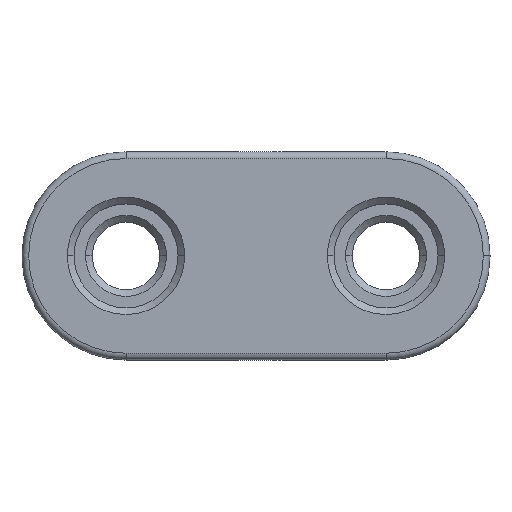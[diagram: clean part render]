
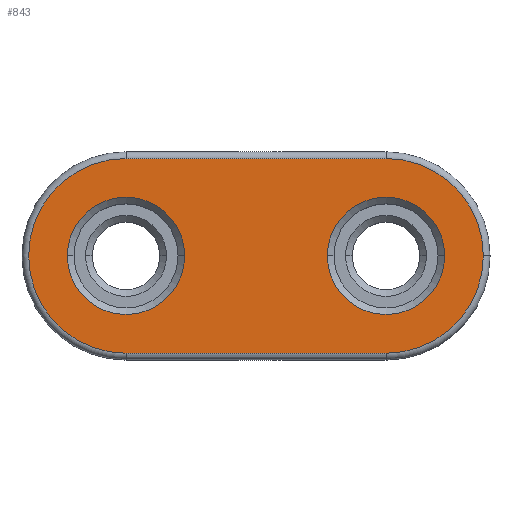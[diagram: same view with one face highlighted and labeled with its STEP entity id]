
A CAD part, top view. The second image highlights one B-rep face of the part: STEP entity #843.
In plain terms, the highlighted planar face has unit normal (0, 0, 1).
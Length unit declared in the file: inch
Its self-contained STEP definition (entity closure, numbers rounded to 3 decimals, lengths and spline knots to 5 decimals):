
#24 = EDGE_CURVE ( 'NONE', #1251, #420, #583, .T. ) ;
#81 = AXIS2_PLACEMENT_3D ( 'NONE', #1982, #747, #965 ) ;
#125 = CARTESIAN_POINT ( 'NONE',  ( 0., 0., 0.375 ) ) ;
#129 = DIRECTION ( 'NONE',  ( 0., 0., -1. ) ) ;
#130 = ORIENTED_EDGE ( 'NONE', *, *, #2289, .T. ) ;
#186 = CARTESIAN_POINT ( 'NONE',  ( 1.25, 0., 0.375 ) ) ;
#193 = CARTESIAN_POINT ( 'NONE',  ( 0., 0.468, 0.375 ) ) ;
#227 = VERTEX_POINT ( 'NONE', #2579 ) ;
#238 = VERTEX_POINT ( 'NONE', #1819 ) ;
#255 = DIRECTION ( 'NONE',  ( 1., 0., 0. ) ) ;
#310 = VERTEX_POINT ( 'NONE', #1741 ) ;
#311 = ORIENTED_EDGE ( 'NONE', *, *, #445, .T. ) ;
#329 = PLANE ( 'NONE',  #81 ) ;
#346 = CARTESIAN_POINT ( 'NONE',  ( 1.25, 0., 0.375 ) ) ;
#420 = VERTEX_POINT ( 'NONE', #2584 ) ;
#425 = EDGE_LOOP ( 'NONE', ( #1304, #1901 ) ) ;
#445 = EDGE_CURVE ( 'NONE', #1322, #310, #456, .T. ) ;
#449 = EDGE_CURVE ( 'NONE', #2181, #227, #592, .T. ) ;
#456 = CIRCLE ( 'NONE', #2508, 0.282 ) ;
#486 = DIRECTION ( 'NONE',  ( 1., 0., 0. ) ) ;
#490 = AXIS2_PLACEMENT_3D ( 'NONE', #125, #2613, #726 ) ;
#525 = FACE_BOUND ( 'NONE', #425, .T. ) ;
#531 = CARTESIAN_POINT ( 'NONE',  ( 0., 0., 0.375 ) ) ;
#563 = DIRECTION ( 'NONE',  ( 0., 0., -1. ) ) ;
#583 = LINE ( 'NONE', #193, #1822 ) ;
#592 = CIRCLE ( 'NONE', #1183, 0.282 ) ;
#676 = VERTEX_POINT ( 'NONE', #2102 ) ;
#677 = EDGE_CURVE ( 'NONE', #676, #1686, #2560, .T. ) ;
#679 = EDGE_LOOP ( 'NONE', ( #311, #1916 ) ) ;
#699 = DIRECTION ( 'NONE',  ( 0., 0., 1. ) ) ;
#720 = FACE_BOUND ( 'NONE', #679, .T. ) ;
#726 = DIRECTION ( 'NONE',  ( 1., 0., 0. ) ) ;
#747 = DIRECTION ( 'NONE',  ( 0., 0., 1. ) ) ;
#752 = FACE_OUTER_BOUND ( 'NONE', #2164, .T. ) ;
#827 = EDGE_CURVE ( 'NONE', #310, #1322, #2210, .T. ) ;
#843 = ADVANCED_FACE ( 'NONE', ( #720, #525, #752 ), #329, .T. ) ;
#872 = CARTESIAN_POINT ( 'NONE',  ( 1.25, -0.468, 0.375 ) ) ;
#963 = DIRECTION ( 'NONE',  ( 1., 0., 0. ) ) ;
#965 = DIRECTION ( 'NONE',  ( 1., 0., 0. ) ) ;
#989 = EDGE_CURVE ( 'NONE', #238, #676, #1663, .T. ) ;
#1004 = VECTOR ( 'NONE', #1503, 39.37008 ) ;
#1005 = CARTESIAN_POINT ( 'NONE',  ( 1.718, 0., 0.375 ) ) ;
#1068 = DIRECTION ( 'NONE',  ( 0., 0., 1. ) ) ;
#1158 = CARTESIAN_POINT ( 'NONE',  ( 1.532, 0., 0.375 ) ) ;
#1183 = AXIS2_PLACEMENT_3D ( 'NONE', #531, #129, #963 ) ;
#1251 = VERTEX_POINT ( 'NONE', #1795 ) ;
#1304 = ORIENTED_EDGE ( 'NONE', *, *, #449, .T. ) ;
#1322 = VERTEX_POINT ( 'NONE', #1158 ) ;
#1352 = CARTESIAN_POINT ( 'NONE',  ( 0.282, 0., 0.375 ) ) ;
#1372 = CIRCLE ( 'NONE', #1989, 0.468 ) ;
#1416 = DIRECTION ( 'NONE',  ( 0., 0., 1. ) ) ;
#1429 = AXIS2_PLACEMENT_3D ( 'NONE', #346, #563, #2406 ) ;
#1494 = CIRCLE ( 'NONE', #490, 0.282 ) ;
#1503 = DIRECTION ( 'NONE',  ( 1., 0., 0. ) ) ;
#1514 = DIRECTION ( 'NONE',  ( 0., 0., -1. ) ) ;
#1553 = ORIENTED_EDGE ( 'NONE', *, *, #989, .T. ) ;
#1591 = ORIENTED_EDGE ( 'NONE', *, *, #2652, .T. ) ;
#1663 = LINE ( 'NONE', #872, #1004 ) ;
#1686 = VERTEX_POINT ( 'NONE', #1005 ) ;
#1695 = CIRCLE ( 'NONE', #2436, 0.468 ) ;
#1708 = CARTESIAN_POINT ( 'NONE',  ( 0., 0., 0.375 ) ) ;
#1741 = CARTESIAN_POINT ( 'NONE',  ( 0.968, 0., 0.375 ) ) ;
#1781 = DIRECTION ( 'NONE',  ( 1., 0., 0. ) ) ;
#1795 = CARTESIAN_POINT ( 'NONE',  ( 1.25, 0.468, 0.375 ) ) ;
#1819 = CARTESIAN_POINT ( 'NONE',  ( 0., -0.468, 0.375 ) ) ;
#1822 = VECTOR ( 'NONE', #2465, 39.37008 ) ;
#1846 = DIRECTION ( 'NONE',  ( 1., 0., 0. ) ) ;
#1901 = ORIENTED_EDGE ( 'NONE', *, *, #2495, .T. ) ;
#1916 = ORIENTED_EDGE ( 'NONE', *, *, #827, .T. ) ;
#1945 = ORIENTED_EDGE ( 'NONE', *, *, #24, .T. ) ;
#1982 = CARTESIAN_POINT ( 'NONE',  ( 0., 0., 0.375 ) ) ;
#1989 = AXIS2_PLACEMENT_3D ( 'NONE', #1708, #699, #486 ) ;
#2102 = CARTESIAN_POINT ( 'NONE',  ( 1.25, -0.468, 0.375 ) ) ;
#2164 = EDGE_LOOP ( 'NONE', ( #130, #1553, #2583, #1591, #1945 ) ) ;
#2181 = VERTEX_POINT ( 'NONE', #1352 ) ;
#2210 = CIRCLE ( 'NONE', #1429, 0.282 ) ;
#2289 = EDGE_CURVE ( 'NONE', #420, #238, #1372, .T. ) ;
#2314 = AXIS2_PLACEMENT_3D ( 'NONE', #2318, #1068, #255 ) ;
#2318 = CARTESIAN_POINT ( 'NONE',  ( 1.25, 0., 0.375 ) ) ;
#2348 = CARTESIAN_POINT ( 'NONE',  ( 1.25, 0., 0.375 ) ) ;
#2406 = DIRECTION ( 'NONE',  ( 1., 0., 0. ) ) ;
#2436 = AXIS2_PLACEMENT_3D ( 'NONE', #186, #1416, #1846 ) ;
#2465 = DIRECTION ( 'NONE',  ( -1., 0., 0. ) ) ;
#2495 = EDGE_CURVE ( 'NONE', #227, #2181, #1494, .T. ) ;
#2508 = AXIS2_PLACEMENT_3D ( 'NONE', #2348, #1514, #1781 ) ;
#2560 = CIRCLE ( 'NONE', #2314, 0.468 ) ;
#2579 = CARTESIAN_POINT ( 'NONE',  ( -0.282, 0., 0.375 ) ) ;
#2583 = ORIENTED_EDGE ( 'NONE', *, *, #677, .T. ) ;
#2584 = CARTESIAN_POINT ( 'NONE',  ( 0., 0.468, 0.375 ) ) ;
#2613 = DIRECTION ( 'NONE',  ( 0., 0., -1. ) ) ;
#2652 = EDGE_CURVE ( 'NONE', #1686, #1251, #1695, .T. ) ;
